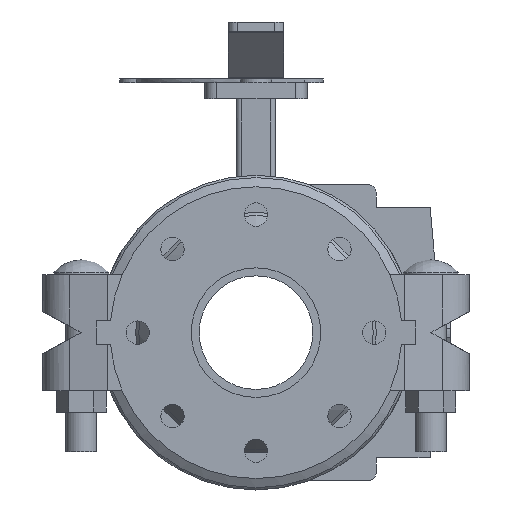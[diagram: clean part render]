
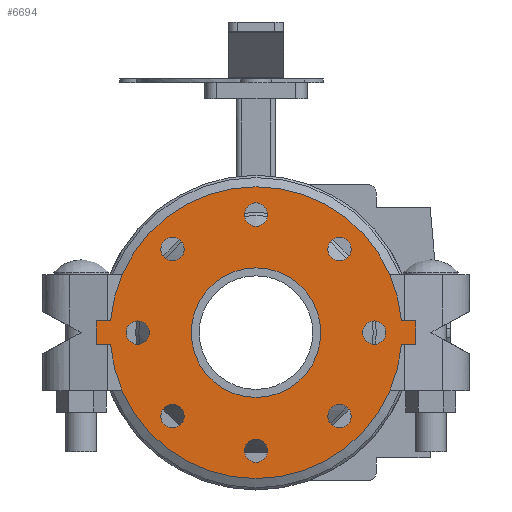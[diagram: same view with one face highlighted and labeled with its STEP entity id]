
A CAD part, front view. The second image highlights one B-rep face of the part: STEP entity #6694.
In plain terms, the highlighted planar face has unit normal (0, -1, 0) as drawn and (0, 0, -1) by its records, which use the part's own axes.
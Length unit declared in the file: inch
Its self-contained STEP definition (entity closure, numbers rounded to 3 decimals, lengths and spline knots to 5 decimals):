
#159=FACE_BOUND('',#834,.T.);
#160=FACE_BOUND('',#835,.T.);
#161=FACE_BOUND('',#836,.T.);
#162=FACE_BOUND('',#837,.T.);
#163=FACE_BOUND('',#838,.T.);
#164=FACE_BOUND('',#839,.T.);
#165=FACE_BOUND('',#840,.T.);
#166=FACE_BOUND('',#841,.T.);
#167=FACE_BOUND('',#842,.T.);
#244=PLANE('',#7259);
#462=FACE_OUTER_BOUND('',#833,.T.);
#833=EDGE_LOOP('',(#4350,#4351,#4352,#4353,#4354,#4355,#4356,#4357));
#834=EDGE_LOOP('',(#4358));
#835=EDGE_LOOP('',(#4359));
#836=EDGE_LOOP('',(#4360));
#837=EDGE_LOOP('',(#4361));
#838=EDGE_LOOP('',(#4362));
#839=EDGE_LOOP('',(#4363));
#840=EDGE_LOOP('',(#4364));
#841=EDGE_LOOP('',(#4365));
#842=EDGE_LOOP('',(#4366));
#1268=LINE('',#10157,#1783);
#1271=LINE('',#10163,#1786);
#1274=LINE('',#10168,#1789);
#1276=LINE('',#10173,#1791);
#1280=LINE('',#10180,#1795);
#1282=LINE('',#10183,#1797);
#1783=VECTOR('',#8085,0.3937);
#1786=VECTOR('',#8090,0.3937);
#1789=VECTOR('',#8095,0.3937);
#1791=VECTOR('',#8099,0.3937);
#1795=VECTOR('',#8105,0.3937);
#1797=VECTOR('',#8109,0.3937);
#2286=CIRCLE('',#7221,0.315);
#2288=CIRCLE('',#7224,0.315);
#2290=CIRCLE('',#7227,0.315);
#2292=CIRCLE('',#7230,0.315);
#2294=CIRCLE('',#7233,0.315);
#2296=CIRCLE('',#7236,0.315);
#2298=CIRCLE('',#7239,0.315);
#2300=CIRCLE('',#7242,0.315);
#2301=CIRCLE('',#7244,1.75);
#2303=CIRCLE('',#7247,3.94);
#2306=CIRCLE('',#7251,3.94);
#2669=VERTEX_POINT('',#10086);
#2671=VERTEX_POINT('',#10092);
#2673=VERTEX_POINT('',#10098);
#2675=VERTEX_POINT('',#10104);
#2677=VERTEX_POINT('',#10110);
#2679=VERTEX_POINT('',#10116);
#2681=VERTEX_POINT('',#10122);
#2683=VERTEX_POINT('',#10128);
#2684=VERTEX_POINT('',#10132);
#2686=VERTEX_POINT('',#10138);
#2688=VERTEX_POINT('',#10141);
#2690=VERTEX_POINT('',#10147);
#2693=VERTEX_POINT('',#10152);
#2694=VERTEX_POINT('',#10156);
#2696=VERTEX_POINT('',#10162);
#2698=VERTEX_POINT('',#10171);
#2699=VERTEX_POINT('',#10172);
#3313=EDGE_CURVE('',#2669,#2669,#2286,.T.);
#3316=EDGE_CURVE('',#2671,#2671,#2288,.T.);
#3319=EDGE_CURVE('',#2673,#2673,#2290,.T.);
#3322=EDGE_CURVE('',#2675,#2675,#2292,.T.);
#3325=EDGE_CURVE('',#2677,#2677,#2294,.T.);
#3328=EDGE_CURVE('',#2679,#2679,#2296,.T.);
#3331=EDGE_CURVE('',#2681,#2681,#2298,.T.);
#3334=EDGE_CURVE('',#2683,#2683,#2300,.T.);
#3335=EDGE_CURVE('',#2684,#2684,#2301,.T.);
#3339=EDGE_CURVE('',#2686,#2688,#2303,.T.);
#3345=EDGE_CURVE('',#2693,#2690,#2306,.T.);
#3346=EDGE_CURVE('',#2688,#2694,#1268,.T.);
#3349=EDGE_CURVE('',#2696,#2693,#1271,.T.);
#3352=EDGE_CURVE('',#2694,#2696,#1274,.T.);
#3354=EDGE_CURVE('',#2698,#2699,#1276,.T.);
#3358=EDGE_CURVE('',#2690,#2698,#1280,.T.);
#3360=EDGE_CURVE('',#2699,#2686,#1282,.T.);
#4350=ORIENTED_EDGE('',*,*,#3360,.F.);
#4351=ORIENTED_EDGE('',*,*,#3354,.F.);
#4352=ORIENTED_EDGE('',*,*,#3358,.F.);
#4353=ORIENTED_EDGE('',*,*,#3345,.F.);
#4354=ORIENTED_EDGE('',*,*,#3349,.F.);
#4355=ORIENTED_EDGE('',*,*,#3352,.F.);
#4356=ORIENTED_EDGE('',*,*,#3346,.F.);
#4357=ORIENTED_EDGE('',*,*,#3339,.F.);
#4358=ORIENTED_EDGE('',*,*,#3313,.T.);
#4359=ORIENTED_EDGE('',*,*,#3316,.T.);
#4360=ORIENTED_EDGE('',*,*,#3319,.T.);
#4361=ORIENTED_EDGE('',*,*,#3322,.T.);
#4362=ORIENTED_EDGE('',*,*,#3325,.T.);
#4363=ORIENTED_EDGE('',*,*,#3328,.T.);
#4364=ORIENTED_EDGE('',*,*,#3331,.T.);
#4365=ORIENTED_EDGE('',*,*,#3334,.T.);
#4366=ORIENTED_EDGE('',*,*,#3335,.T.);
#6694=ADVANCED_FACE('',(#462,#159,#160,#161,#162,#163,#164,#165,#166,#167),
#244,.F.);
#7221=AXIS2_PLACEMENT_3D('',#10088,#8009,#8010);
#7224=AXIS2_PLACEMENT_3D('',#10094,#8016,#8017);
#7227=AXIS2_PLACEMENT_3D('',#10100,#8023,#8024);
#7230=AXIS2_PLACEMENT_3D('',#10106,#8030,#8031);
#7233=AXIS2_PLACEMENT_3D('',#10112,#8037,#8038);
#7236=AXIS2_PLACEMENT_3D('',#10118,#8044,#8045);
#7239=AXIS2_PLACEMENT_3D('',#10124,#8051,#8052);
#7242=AXIS2_PLACEMENT_3D('',#10130,#8058,#8059);
#7244=AXIS2_PLACEMENT_3D('',#10133,#8062,#8063);
#7247=AXIS2_PLACEMENT_3D('',#10142,#8070,#8071);
#7251=AXIS2_PLACEMENT_3D('',#10154,#8081,#8082);
#7259=AXIS2_PLACEMENT_3D('',#10186,#8113,#8114);
#8009=DIRECTION('center_axis',(0.,0.,1.));
#8010=DIRECTION('ref_axis',(-0.707,-0.707,0.));
#8016=DIRECTION('center_axis',(0.,0.,1.));
#8017=DIRECTION('ref_axis',(-1.,0.,0.));
#8023=DIRECTION('center_axis',(0.,0.,1.));
#8024=DIRECTION('ref_axis',(-0.707,0.707,0.));
#8030=DIRECTION('center_axis',(0.,0.,1.));
#8031=DIRECTION('ref_axis',(0.,1.,0.));
#8037=DIRECTION('center_axis',(0.,0.,1.));
#8038=DIRECTION('ref_axis',(0.707,0.707,0.));
#8044=DIRECTION('center_axis',(0.,0.,1.));
#8045=DIRECTION('ref_axis',(1.,0.,0.));
#8051=DIRECTION('center_axis',(0.,0.,1.));
#8052=DIRECTION('ref_axis',(0.707,-0.707,0.));
#8058=DIRECTION('center_axis',(0.,0.,1.));
#8059=DIRECTION('ref_axis',(0.,-1.,0.));
#8062=DIRECTION('center_axis',(0.,0.,1.));
#8063=DIRECTION('ref_axis',(0.,-1.,0.));
#8070=DIRECTION('center_axis',(0.,0.,1.));
#8071=DIRECTION('ref_axis',(0.,1.,0.));
#8081=DIRECTION('center_axis',(0.,0.,1.));
#8082=DIRECTION('ref_axis',(0.,1.,0.));
#8085=DIRECTION('',(0.,-1.,0.));
#8090=DIRECTION('',(0.,1.,0.));
#8095=DIRECTION('',(1.,0.,0.));
#8099=DIRECTION('',(-1.,0.,0.));
#8105=DIRECTION('',(0.,1.,0.));
#8109=DIRECTION('',(0.,-1.,0.));
#8113=DIRECTION('center_axis',(0.,0.,1.));
#8114=DIRECTION('ref_axis',(0.,1.,0.));
#10086=CARTESIAN_POINT('',(-2.03293,2.47841,0.));
#10088=CARTESIAN_POINT('Origin',(-2.25567,2.25567,0.));
#10092=CARTESIAN_POINT('',(0.315,3.19,0.));
#10094=CARTESIAN_POINT('Origin',(0.,3.19,0.));
#10098=CARTESIAN_POINT('',(2.47841,2.03293,0.));
#10100=CARTESIAN_POINT('Origin',(2.25567,2.25567,0.));
#10104=CARTESIAN_POINT('',(3.19,-0.315,0.));
#10106=CARTESIAN_POINT('Origin',(3.19,0.,0.));
#10110=CARTESIAN_POINT('',(2.03293,-2.47841,0.));
#10112=CARTESIAN_POINT('Origin',(2.25567,-2.25567,0.));
#10116=CARTESIAN_POINT('',(-0.315,-3.19,0.));
#10118=CARTESIAN_POINT('Origin',(0.,-3.19,0.));
#10122=CARTESIAN_POINT('',(-2.47841,-2.03293,0.));
#10124=CARTESIAN_POINT('Origin',(-2.25567,-2.25567,0.));
#10128=CARTESIAN_POINT('',(-3.19,0.315,0.));
#10130=CARTESIAN_POINT('Origin',(-3.19,0.,0.));
#10132=CARTESIAN_POINT('',(0.,1.75,0.));
#10133=CARTESIAN_POINT('Origin',(0.,0.,0.));
#10138=CARTESIAN_POINT('',(-0.32,3.92698,0.));
#10141=CARTESIAN_POINT('',(-0.32,-3.92698,0.));
#10142=CARTESIAN_POINT('Origin',(0.,0.,0.));
#10147=CARTESIAN_POINT('',(0.32,3.92698,0.));
#10152=CARTESIAN_POINT('',(0.32,-3.92698,0.));
#10154=CARTESIAN_POINT('Origin',(0.,0.,0.));
#10156=CARTESIAN_POINT('',(-0.32,-4.315,0.));
#10157=CARTESIAN_POINT('',(-0.32,-3.92698,0.));
#10162=CARTESIAN_POINT('',(0.32,-4.315,0.));
#10163=CARTESIAN_POINT('',(0.32,-4.315,0.));
#10168=CARTESIAN_POINT('',(-0.32,-4.315,0.));
#10171=CARTESIAN_POINT('',(0.32,4.315,0.));
#10172=CARTESIAN_POINT('',(-0.32,4.315,0.));
#10173=CARTESIAN_POINT('',(0.32,4.315,0.));
#10180=CARTESIAN_POINT('',(0.32,3.92698,0.));
#10183=CARTESIAN_POINT('',(-0.32,4.315,0.));
#10186=CARTESIAN_POINT('Origin',(0.,4.1395,
0.));
